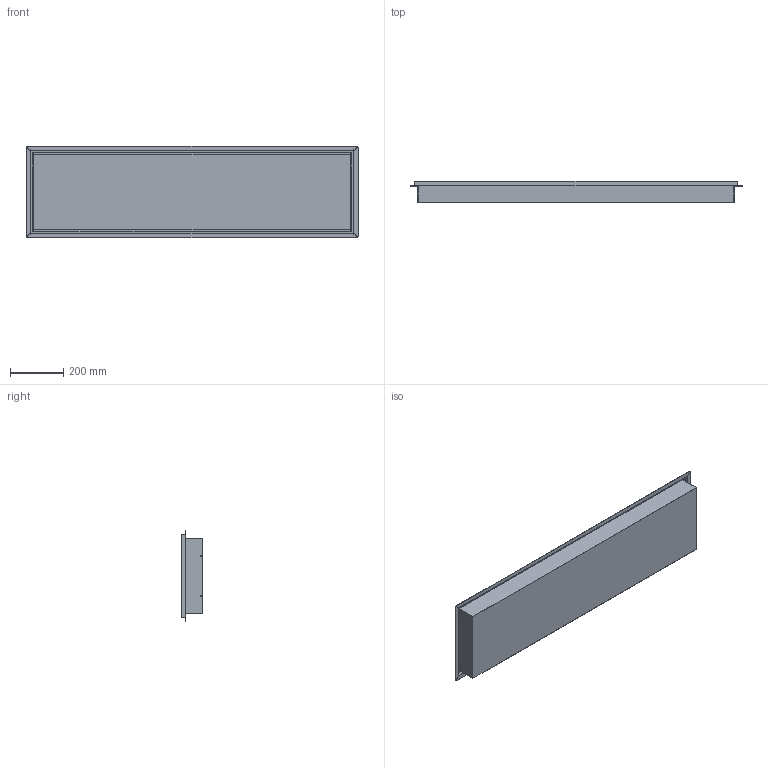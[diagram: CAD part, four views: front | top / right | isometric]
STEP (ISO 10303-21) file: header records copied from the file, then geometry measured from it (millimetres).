
FILE_DESCRIPTION(/* description */ (''),/* implementation_level */ '2;1');
FILE_NAME(/* name */ 'C:/Users/elena/Desktop/Corner QNR 30x120.step',/* time_stamp */ '2020-06-17T13:31:25+02:00',/* author */ (''),/* organization */ (''),/* preprocessor_version */ 'ST-DEVELOPER v18.1',/* originating_system */ 'Autodesk Translation Framework v9.3.0.1241',/* authorisation */ '');
FILE_SCHEMA (('AUTOMOTIVE_DESIGN { 1 0 10303 214 3 1 1 }'));
Length unit declared in the file: millimetre
Products named in the file (1): (Unsaved)
Bounding box: 1242 x 79 x 342 mm (x, y, z)
Volume: 1774832.6 mm3; surface area: 2157885 mm2
Topology: 3 solids, 3 shells, 153 faces, 374 edges, 221 vertices
Faces by surface type: plane 89, cylinder 60, bspline 4
Entity records: 5074 total; most frequent: CARTESIAN_POINT 1375, DIRECTION 780, ORIENTED_EDGE 748, EDGE_CURVE 374, AXIS2_PLACEMENT_3D 264, LINE 252, VECTOR 252, VERTEX_POINT 221
